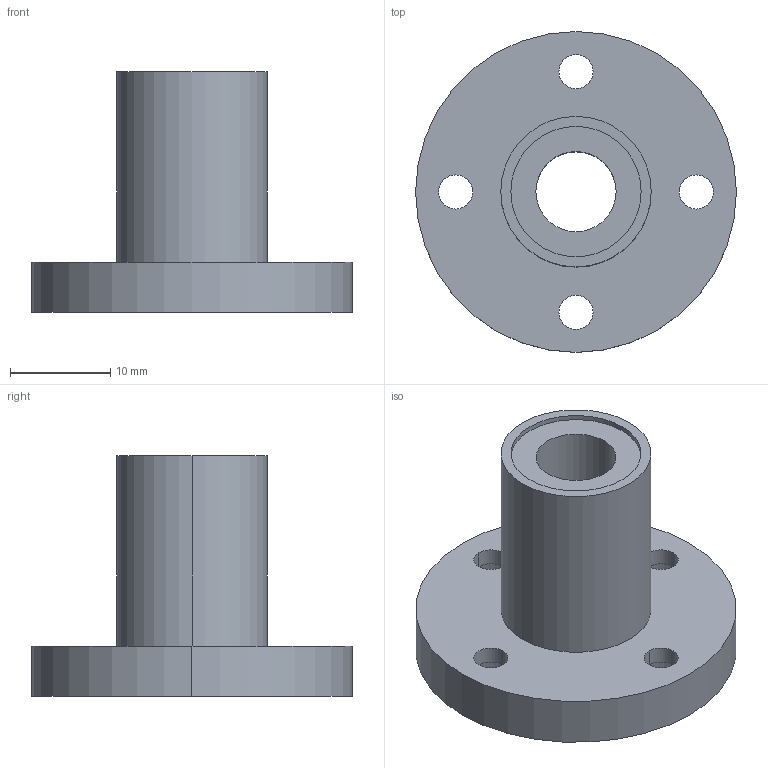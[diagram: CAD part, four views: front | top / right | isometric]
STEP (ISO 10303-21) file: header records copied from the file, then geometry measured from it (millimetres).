
FILE_DESCRIPTION((''),'2;1');
FILE_NAME('C:\Documents and Settings\ｿﾀﾀ蠑ｷ1\ｹﾙﾅﾁ ﾈｭｸ饅\ｺﾎﾇｰﾆﾄﾀﾏ\ﾁｦﾇｰ\LMF__UU\LMF8UU.stp','2005-06-15T09:35:38',('ｿﾀﾀ蠑ｷ1'),(''),'Autodesk Inventor 9','Autodesk Inventor 9','');
FILE_SCHEMA(('AUTOMOTIVE_DESIGN { 1 0 10303 214 1 1 1 1 }'));
Length unit declared in the file: millimetre
Products named in the file (1): LMF__
Bounding box: 32 x 32 x 24 mm (x, y, z)
Volume: 5568.8 mm3; surface area: 3797.9 mm2
Topology: 1 solids, 1 shells, 38 faces, 84 edges, 56 vertices
Faces by surface type: cylinder 28, plane 10
Entity records: 1127 total; most frequent: DIRECTION 218, CARTESIAN_POINT 179, ORIENTED_EDGE 168, AXIS2_PLACEMENT_3D 95, EDGE_CURVE 84, VERTEX_POINT 56, CIRCLE 56, EDGE_LOOP 56
